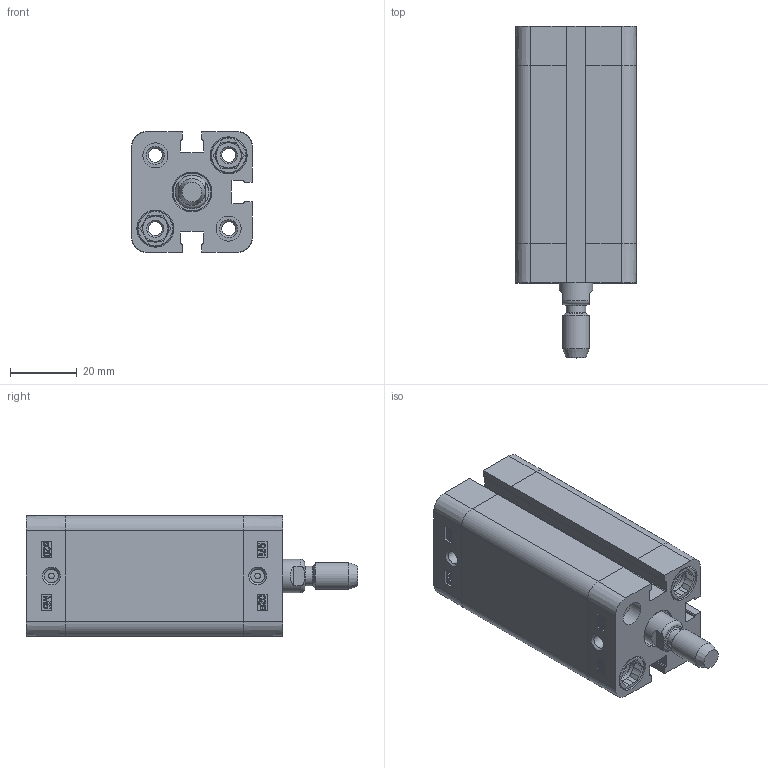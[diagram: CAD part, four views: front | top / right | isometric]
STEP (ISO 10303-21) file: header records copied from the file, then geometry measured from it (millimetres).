
FILE_DESCRIPTION((''),'2;1');
FILE_NAME('T:\Archivio Inventor\- CATALOGHI 2012\SERIE P - NUOVA\PDM\PDM020\PDM020.---.GS.M\STEP\PDM020.040.GS.M.stp','2013-01-30T10:56:36',('Administrator'),(''),'Autodesk Inventor 2012','Autodesk Inventor 2012','');
FILE_SCHEMA(('CONFIG_CONTROL_DESIGN'));
Length unit declared in the file: millimetre
Products named in the file (1): PDM020.040.GS.M
Bounding box: 36.3 x 99.6 x 36.3 mm (x, y, z)
Volume: 56907.6 mm3; surface area: 32291.8 mm2
Topology: 1 solids, 3 shells, 489 faces, 1225 edges, 798 vertices
Faces by surface type: plane 245, bspline 94, cylinder 88, cone 50, torus 12
Full cylindrical faces by diameter (mm): 1.75 x2, 4.134 x10, 5.8 x1, 7.5 x4, 7.55 x2, 8 x9, 9 x1, 10 x1, 10.8 x4, 11.1 x4, 11.4 x1, 20 x1, 22.3 x1, 22.5 x1
Entity records: 15057 total; most frequent: CARTESIAN_POINT 3740, ORIENTED_EDGE 2232, DIRECTION 1950, EDGE_CURVE 1116, VERTEX_POINT 782, VECTOR 670, LINE 670, EDGE_LOOP 652
